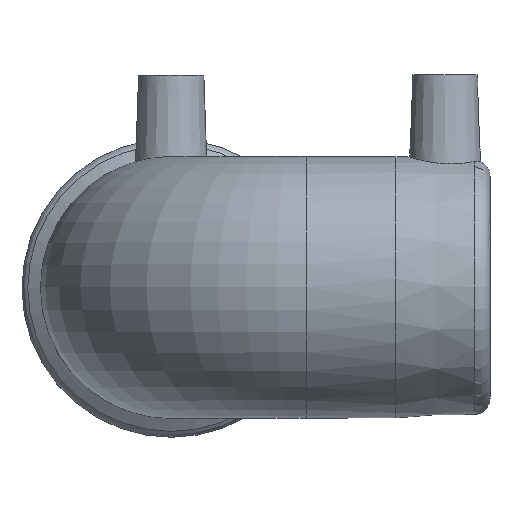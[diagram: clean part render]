
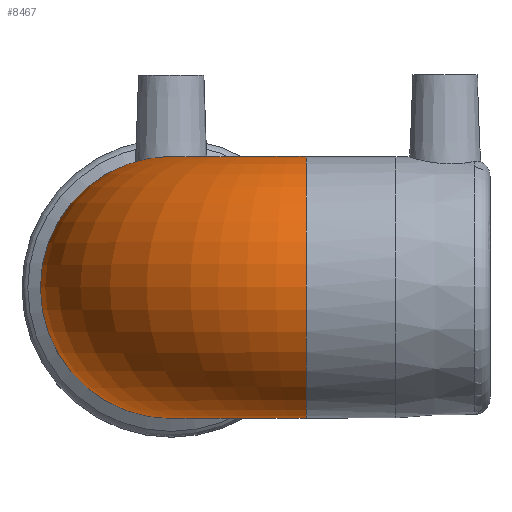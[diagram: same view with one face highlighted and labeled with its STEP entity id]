
A CAD part, top view. The second image highlights one B-rep face of the part: STEP entity #8467.
In plain terms, the highlighted toroidal (fillet/blend) face has major radius 33 mm and minor radius 32 mm.
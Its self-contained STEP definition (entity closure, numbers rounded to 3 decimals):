
#1144=TOROIDAL_SURFACE('',#10810,33.,32.);
#1809=ORIENTED_EDGE('',*,*,#4540,.F.);
#1810=ORIENTED_EDGE('',*,*,#4544,.T.);
#4540=EDGE_CURVE('',#5911,#5911,#6819,.F.);
#4544=EDGE_CURVE('',#5915,#5915,#6821,.F.);
#5911=VERTEX_POINT('',#14104);
#5915=VERTEX_POINT('',#14126);
#6819=CIRCLE('',#10802,32.);
#6821=CIRCLE('',#10806,32.);
#7167=EDGE_LOOP('',(#1809));
#7168=EDGE_LOOP('',(#1810));
#7786=FACE_BOUND('',#7167,.T.);
#7787=FACE_BOUND('',#7168,.T.);
#8467=ADVANCED_FACE('',(#7786,#7787),#1144,.T.);
#10802=AXIS2_PLACEMENT_3D('',#14103,#11815,#11816);
#10806=AXIS2_PLACEMENT_3D('',#14125,#11823,#11824);
#10810=AXIS2_PLACEMENT_3D('',#14144,#11831,#11832);
#11815=DIRECTION('',(-1.,0.,0.));
#11816=DIRECTION('',(0.,0.,-1.));
#11823=DIRECTION('',(0.,0.,-1.));
#11824=DIRECTION('',(1.,0.,0.));
#11831=DIRECTION('',(0.,1.,0.));
#11832=DIRECTION('',(0.,0.,1.));
#14103=CARTESIAN_POINT('',(33.,0.,78.));
#14104=CARTESIAN_POINT('',(33.,0.,46.));
#14125=CARTESIAN_POINT('',(0.,0.,45.));
#14126=CARTESIAN_POINT('',(32.,0.,45.));
#14144=CARTESIAN_POINT('',(33.,0.,45.));
